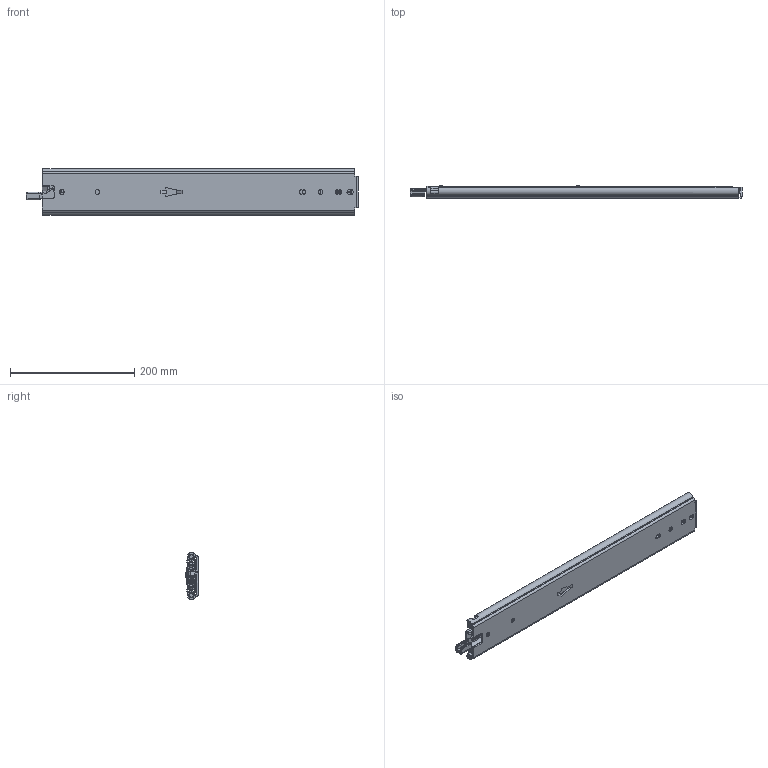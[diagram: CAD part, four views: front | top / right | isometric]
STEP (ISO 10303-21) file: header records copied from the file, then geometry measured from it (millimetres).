
FILE_DESCRIPTION((''),'2;1');
FILE_NAME('DG-76-3S-20ZUO_ASM','2023-05-09T',('jishu015'),(''),'PRO/ENGINEER BY PARAMETRIC TECHNOLOGY CORPORATION, 2010280','PRO/ENGINEER BY PARAMETRIC TECHNOLOGY CORPORATION, 2010280','');
FILE_SCHEMA(('CONFIG_CONTROL_DESIGN'));
Length unit declared in the file: millimetre
Products named in the file (29): KP-76-04WAIKE-1816__; 1076-WAIKEZIDANJIAO16__; WAIK16___ASM; 1076XIAOZHUTIAO-22516__; 16__; 1076XIAOZHUTIAO-17516___ASM; KP-76-04ZHONGGUI1816__; 76CHANGGUIZHONGGUIJIAO16__; 3X6WODIN16__; ZHONGGUIBAIKOU16__; PJ-76-30_; PJ-76-03_; 76-XIAOZHUJIA-11_; GANGZHU-XIAO_; ZHUJIA-XIAO__ASM; ZHONGGUI6___ASM; KP-76-04NEIGUI1816__; PJ-76-31_; DAOGPIAN16__; 1053-3SBANJ01_; JIAO-11_; 76XINSUOKOU_; PJ-338_; PJ-356_; PJ-357_; PJ-336_; M4X4_; NEIGUI16___ASM; DG-76-3S-20ZUO_ASM
Assembly tree (52 placements, depth 4):
  DG-76-3S-20ZUO_ASM
    WAIK16___ASM
      KP-76-04WAIKE-1816__
      1076-WAIKEZIDANJIAO16__  x2
    1076XIAOZHUTIAO-17516___ASM  x2
      1076XIAOZHUTIAO-22516__
      16__
    ZHONGGUI6___ASM
      KP-76-04ZHONGGUI1816__
      76CHANGGUIZHONGGUIJIAO16__
      3X6WODIN16__
      ZHONGGUIBAIKOU16__
      PJ-76-30_
      PJ-76-03_
      ZHUJIA-XIAO__ASM
        76-XIAOZHUJIA-11_
        GANGZHU-XIAO_  x16
    NEIGUI16___ASM
      KP-76-04NEIGUI1816__
      PJ-76-31_
      DAOGPIAN16__
      1053-3SBANJ01_
      JIAO-11_
      76XINSUOKOU_
      PJ-338_
      PJ-356_
      PJ-357_
      PJ-336_
      M4X4_
Bounding box: 533.92 x 20.7 x 75.3 mm (x, y, z)
Volume: 331497.5 mm3; surface area: 319192.5 mm2
Topology: 56 solids, 56 shells, 1817 faces, 5407 edges, 3481 vertices
Faces by surface type: plane 813, cylinder 686, bspline 116, torus 80, sphere 71, cone 28, extrusion 23
Entity records: 65541 total; most frequent: CARTESIAN_POINT 21202, ORIENTED_EDGE 9794, DIRECTION 8588, EDGE_CURVE 4897, VERTEX_POINT 3213, AXIS2_PLACEMENT_3D 3022, VECTOR 2544, LINE 2521
